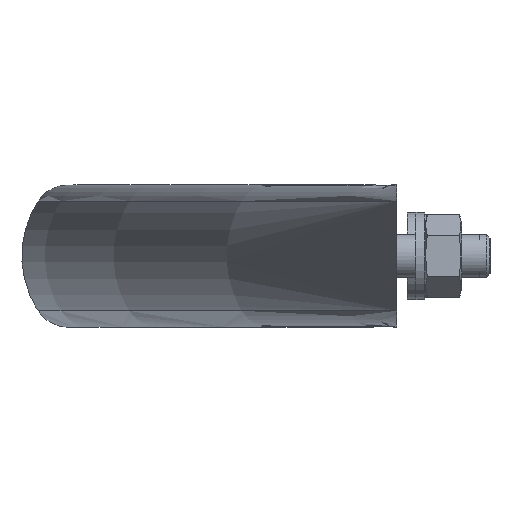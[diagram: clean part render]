
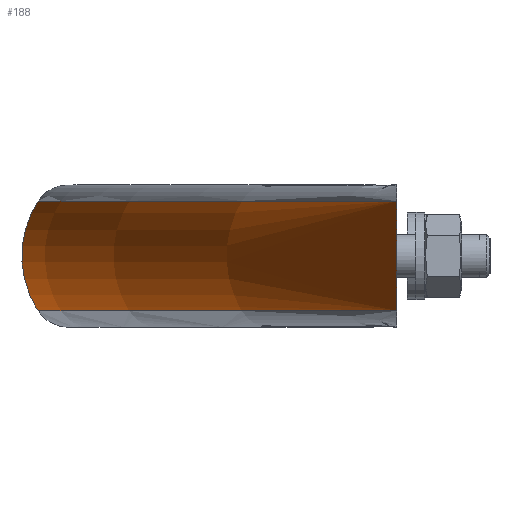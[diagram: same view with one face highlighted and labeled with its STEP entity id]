
A CAD part, left-side view. The second image highlights one B-rep face of the part: STEP entity #188.
In plain terms, the highlighted toroidal (fillet/blend) face has major radius 520.831 mm and minor radius 18.303 mm.
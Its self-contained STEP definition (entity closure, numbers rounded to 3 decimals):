
#188 = ADVANCED_FACE( '', ( #243 ), #244, .T. );
#243 = FACE_OUTER_BOUND( '', #349, .T. );
#244 = TOROIDAL_SURFACE( '', #350, 520.831, 18.303 );
#349 = EDGE_LOOP( '', ( #499, #500, #501, #502 ) );
#350 = AXIS2_PLACEMENT_3D( '', #503, #504, #505 );
#499 = ORIENTED_EDGE( '', *, *, #794, .F. );
#500 = ORIENTED_EDGE( '', *, *, #795, .T. );
#501 = ORIENTED_EDGE( '', *, *, #786, .T. );
#502 = ORIENTED_EDGE( '', *, *, #784, .T. );
#503 = CARTESIAN_POINT( '', ( 0., -470.633, 0. ) );
#504 = DIRECTION( '', ( 0., 0., -1. ) );
#505 = DIRECTION( '', ( -1., 0., 0. ) );
#784 = EDGE_CURVE( '', #896, #894, #897, .T. );
#786 = EDGE_CURVE( '', #899, #896, #900, .T. );
#794 = EDGE_CURVE( '', #910, #894, #911, .T. );
#795 = EDGE_CURVE( '', #910, #899, #912, .T. );
#894 = VERTEX_POINT( '', #1106 );
#896 = VERTEX_POINT( '', #1133 );
#897 = B_SPLINE_CURVE_WITH_KNOTS( '', 3, ( #1134, #1135, #1136, #1137, #1138, #1139, #1140, #1141, #1142, #1143, #1144, #1145, #1146, #1147, #1148, #1149, #1150, #1151, #1152, #1153, #1154, #1155, #1156, #1157, #1158, #1159, #1160, #1161, #1162, #1163, #1164, #1165 ), .UNSPECIFIED., .F., .F., ( 4, 2, 2, 2, 2, 2, 2, 2, 2, 2, 2, 2, 2, 2, 2, 4 ), ( 0.085, 0.088, 0.089, 0.091, 0.094, 0.095, 0.097, 0.098, 0.098, 0.1, 0.101, 0.101, 0.103, 0.104, 0.106, 0.109 ), .UNSPECIFIED. );
#899 = VERTEX_POINT( '', #1190 );
#900 = CIRCLE( '', #1191, 536.149 );
#910 = VERTEX_POINT( '', #1238 );
#911 = CIRCLE( '', #1239, 536.149 );
#912 = B_SPLINE_CURVE_WITH_KNOTS( '', 3, ( #1240, #1241, #1242, #1243, #1244, #1245, #1246, #1247, #1248, #1249, #1250, #1251, #1252, #1253, #1254, #1255, #1256, #1257, #1258, #1259, #1260, #1261, #1262, #1263, #1264, #1265, #1266, #1267, #1268, #1269, #1270, #1271 ), .UNSPECIFIED., .F., .F., ( 4, 2, 2, 2, 2, 2, 2, 2, 2, 2, 2, 2, 2, 2, 2, 4 ), ( 0.196, 0.2, 0.203, 0.204, 0.206, 0.206, 0.207, 0.209, 0.209, 0.21, 0.212, 0.213, 0.215, 0.216, 0.218, 0.221 ), .UNSPECIFIED. );
#1106 = CARTESIAN_POINT( '', ( 256.828, 0., -10.016 ) );
#1133 = CARTESIAN_POINT( '', ( 256.828, 0., 10.016 ) );
#1134 = CARTESIAN_POINT( '', ( 256.828, 0., 10.016 ) );
#1135 = CARTESIAN_POINT( '', ( 257.643, 0., 9.419 ) );
#1136 = CARTESIAN_POINT( '', ( 258.416, 0., 8.775 ) );
#1137 = CARTESIAN_POINT( '', ( 259.492, 0., 7.719 ) );
#1138 = CARTESIAN_POINT( '', ( 259.837, 0., 7.351 ) );
#1139 = CARTESIAN_POINT( '', ( 260.493, 0., 6.58 ) );
#1140 = CARTESIAN_POINT( '', ( 260.806, 0., 6.173 ) );
#1141 = CARTESIAN_POINT( '', ( 261.674, 0., 4.901 ) );
#1142 = CARTESIAN_POINT( '', ( 262.149, 0., 3.999 ) );
#1143 = CARTESIAN_POINT( '', ( 262.651, 0., 2.538 ) );
#1144 = CARTESIAN_POINT( '', ( 262.78, 0., 2.042 ) );
#1145 = CARTESIAN_POINT( '', ( 262.953, 0., 1.042 ) );
#1146 = CARTESIAN_POINT( '', ( 262.999, 0., 0.537 ) );
#1147 = CARTESIAN_POINT( '', ( 263.001, 0., -0.231 ) );
#1148 = CARTESIAN_POINT( '', ( 262.99, 0., -0.49 ) );
#1149 = CARTESIAN_POINT( '', ( 262.947, 0., -1.002 ) );
#1150 = CARTESIAN_POINT( '', ( 262.915, 0., -1.256 ) );
#1151 = CARTESIAN_POINT( '', ( 262.787, 0., -2.01 ) );
#1152 = CARTESIAN_POINT( '', ( 262.661, 0., -2.503 ) );
#1153 = CARTESIAN_POINT( '', ( 262.414, 0., -3.23 ) );
#1154 = CARTESIAN_POINT( '', ( 262.322, 0., -3.472 ) );
#1155 = CARTESIAN_POINT( '', ( 262.121, 0., -3.944 ) );
#1156 = CARTESIAN_POINT( '', ( 262.012, 0., -4.176 ) );
#1157 = CARTESIAN_POINT( '', ( 261.665, 0., -4.857 ) );
#1158 = CARTESIAN_POINT( '', ( 261.405, 0., -5.293 ) );
#1159 = CARTESIAN_POINT( '', ( 260.834, 0., -6.135 ) );
#1160 = CARTESIAN_POINT( '', ( 260.524, 0., -6.541 ) );
#1161 = CARTESIAN_POINT( '', ( 259.86, 0., -7.326 ) );
#1162 = CARTESIAN_POINT( '', ( 259.512, 0., -7.698 ) );
#1163 = CARTESIAN_POINT( '', ( 258.425, 0., -8.768 ) );
#1164 = CARTESIAN_POINT( '', ( 257.647, 0., -9.416 ) );
#1165 = CARTESIAN_POINT( '', ( 256.828, 0., -10.016 ) );
#1190 = CARTESIAN_POINT( '', ( -256.828, 0., 10.016 ) );
#1191 = AXIS2_PLACEMENT_3D( '', #1533, #1534, #1535 );
#1238 = CARTESIAN_POINT( '', ( -256.828, 0., -10.016 ) );
#1239 = AXIS2_PLACEMENT_3D( '', #1548, #1549, #1550 );
#1240 = CARTESIAN_POINT( '', ( -256.828, 0., -10.016 ) );
#1241 = CARTESIAN_POINT( '', ( -257.653, 0., -9.412 ) );
#1242 = CARTESIAN_POINT( '', ( -258.431, 0., -8.762 ) );
#1243 = CARTESIAN_POINT( '', ( -259.868, 0., -7.348 ) );
#1244 = CARTESIAN_POINT( '', ( -260.528, 0., -6.584 ) );
#1245 = CARTESIAN_POINT( '', ( -261.39, 0., -5.317 ) );
#1246 = CARTESIAN_POINT( '', ( -261.656, 0., -4.873 ) );
#1247 = CARTESIAN_POINT( '', ( -262.12, 0., -3.965 ) );
#1248 = CARTESIAN_POINT( '', ( -262.321, 0., -3.498 ) );
#1249 = CARTESIAN_POINT( '', ( -262.569, 0., -2.775 ) );
#1250 = CARTESIAN_POINT( '', ( -262.643, 0., -2.531 ) );
#1251 = CARTESIAN_POINT( '', ( -262.771, 0., -2.033 ) );
#1252 = CARTESIAN_POINT( '', ( -262.826, 0., -1.781 ) );
#1253 = CARTESIAN_POINT( '', ( -262.955, 0., -1.026 ) );
#1254 = CARTESIAN_POINT( '', ( -262.999, 0., -0.521 ) );
#1255 = CARTESIAN_POINT( '', ( -263., 0., 0.239 ) );
#1256 = CARTESIAN_POINT( '', ( -262.99, 0., 0.493 ) );
#1257 = CARTESIAN_POINT( '', ( -262.947, 0., 1.002 ) );
#1258 = CARTESIAN_POINT( '', ( -262.915, 0., 1.258 ) );
#1259 = CARTESIAN_POINT( '', ( -262.786, 0., 2.018 ) );
#1260 = CARTESIAN_POINT( '', ( -262.658, 0., 2.512 ) );
#1261 = CARTESIAN_POINT( '', ( -262.33, 0., 3.476 ) );
#1262 = CARTESIAN_POINT( '', ( -262.128, 0., 3.949 ) );
#1263 = CARTESIAN_POINT( '', ( -261.662, 0., 4.863 ) );
#1264 = CARTESIAN_POINT( '', ( -261.4, 0., 5.3 ) );
#1265 = CARTESIAN_POINT( '', ( -260.831, 0., 6.14 ) );
#1266 = CARTESIAN_POINT( '', ( -260.523, 0., 6.543 ) );
#1267 = CARTESIAN_POINT( '', ( -259.866, 0., 7.32 ) );
#1268 = CARTESIAN_POINT( '', ( -259.515, 0., 7.695 ) );
#1269 = CARTESIAN_POINT( '', ( -258.423, 0., 8.771 ) );
#1270 = CARTESIAN_POINT( '', ( -257.643, 0., 9.418 ) );
#1271 = CARTESIAN_POINT( '', ( -256.828, 0., 10.016 ) );
#1533 = CARTESIAN_POINT( '', ( 0., -470.633, 10.016 ) );
#1534 = DIRECTION( '', ( 0., 0., -1. ) );
#1535 = DIRECTION( '', ( -1., 0., 0. ) );
#1548 = CARTESIAN_POINT( '', ( 0., -470.633, -10.016 ) );
#1549 = DIRECTION( '', ( 0., 0., -1. ) );
#1550 = DIRECTION( '', ( -1., 0., 0. ) );
